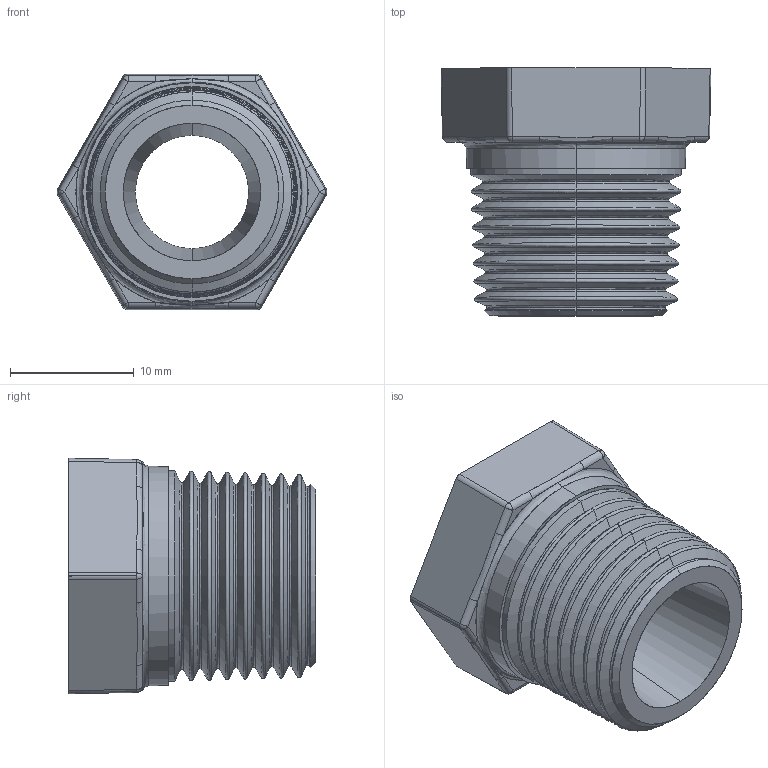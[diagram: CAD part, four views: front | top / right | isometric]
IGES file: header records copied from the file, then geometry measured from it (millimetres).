
Start section: SolidWorks IGES file using analytic representation for surfaces
Global section: file name: C:\Users\Joel Rosa\Desktop\Tubulação\12-01-OK\12-01-023.IGS; native system: SolidWorks 2011; preprocessor: SolidWorks 2011; author: Joel Rosa; date: 121203.194254; units: millimetre
Bounding box: 21.78 x 20 x 19 mm (x, y, z)
Surface area: 2809.1 mm2 (no closed solid volume)
Topology: 0 solids, 0 shells, 203 faces, 1189 edges, 1189 vertices
Faces by surface type: bspline 106, revolution 97
